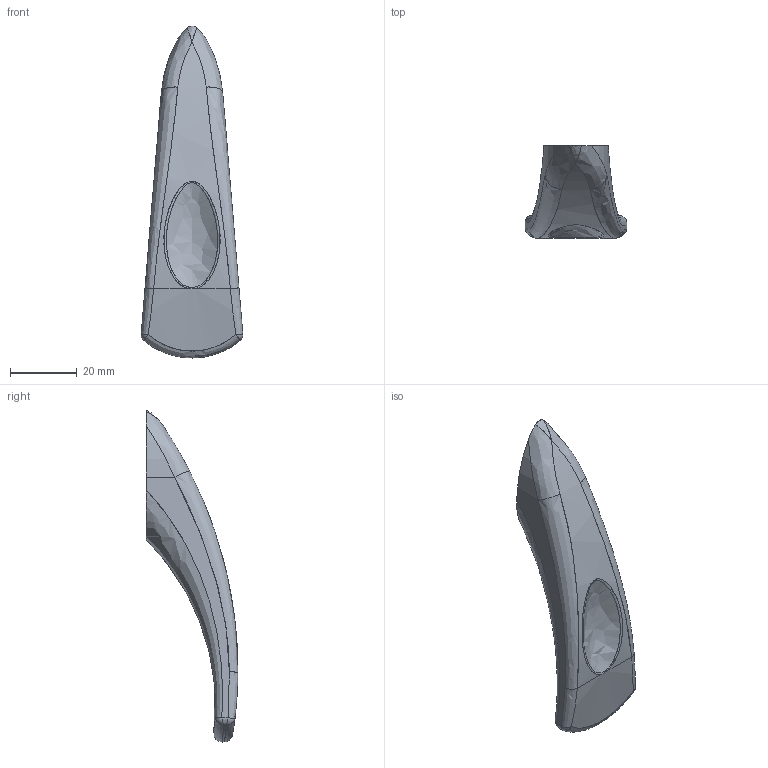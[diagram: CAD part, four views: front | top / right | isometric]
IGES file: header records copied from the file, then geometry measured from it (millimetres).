
Start section: C
Global section: file name: 0070.igs; native system: By Siemens PLM Incorporated; preprocessor: XPlus GENERIC/IGES 16.0.42; author: Author; organization: Title; date: 20260104.160405; units: millimetre
Bounding box: 30.39 x 27.52 x 99.31 mm (x, y, z)
Surface area: 6552.4 mm2 (no closed solid volume)
Topology: 0 solids, 0 shells, 32 faces, 223 edges, 218 vertices
Faces by surface type: bspline 32
